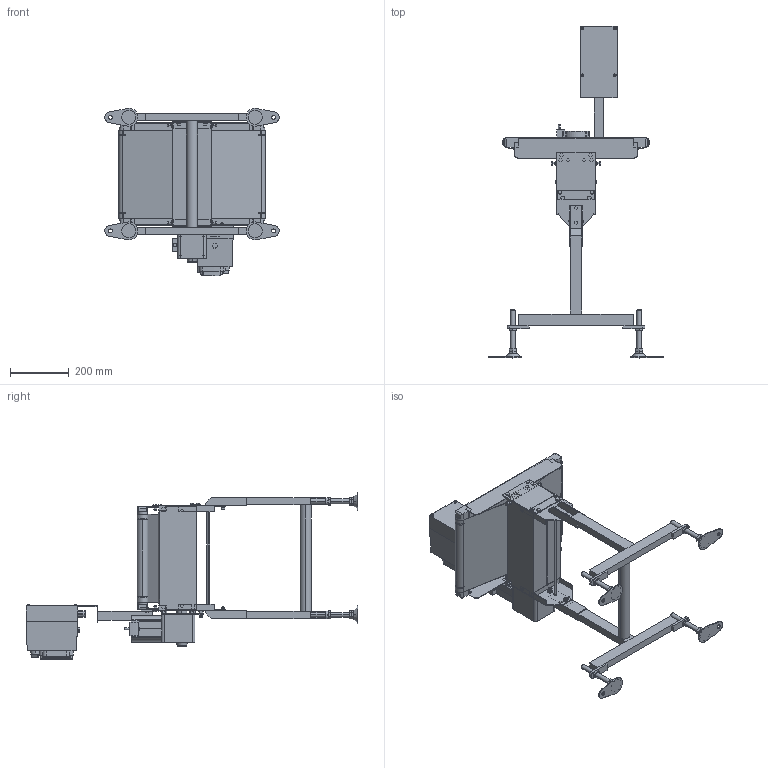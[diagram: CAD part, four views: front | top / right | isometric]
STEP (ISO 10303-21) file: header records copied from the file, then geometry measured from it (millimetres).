
FILE_DESCRIPTION (( 'STEP AP214' ), '1' );
FILE_NAME ('FSDHS-300-500-R.STEP', '2023-04-20T09:14:42', ( '' ), ( '' ), 'SwSTEP 2.0', 'SolidWorks 2017', '' );
FILE_SCHEMA (( 'AUTOMOTIVE_DESIGN' ));
Length unit declared in the file: millimetre
Products named in the file (1): FSDHS-300-500-R
Bounding box: 594 x 1131 x 569.99 mm (x, y, z)
Volume: 15835148.4 mm3; surface area: 2779144.6 mm2
Topology: 46 solids, 48 shells, 1758 faces, 4365 edges, 2866 vertices
Faces by surface type: plane 1175, cylinder 540, cone 29, bspline 14
Entity records: 73980 total; most frequent: CARTESIAN_POINT 11192, DIRECTION 8967, ORIENTED_EDGE 8726, EDGE_CURVE 4363, LINE 3103, VECTOR 3103, AXIS2_PLACEMENT_3D 2932, VERTEX_POINT 2866
